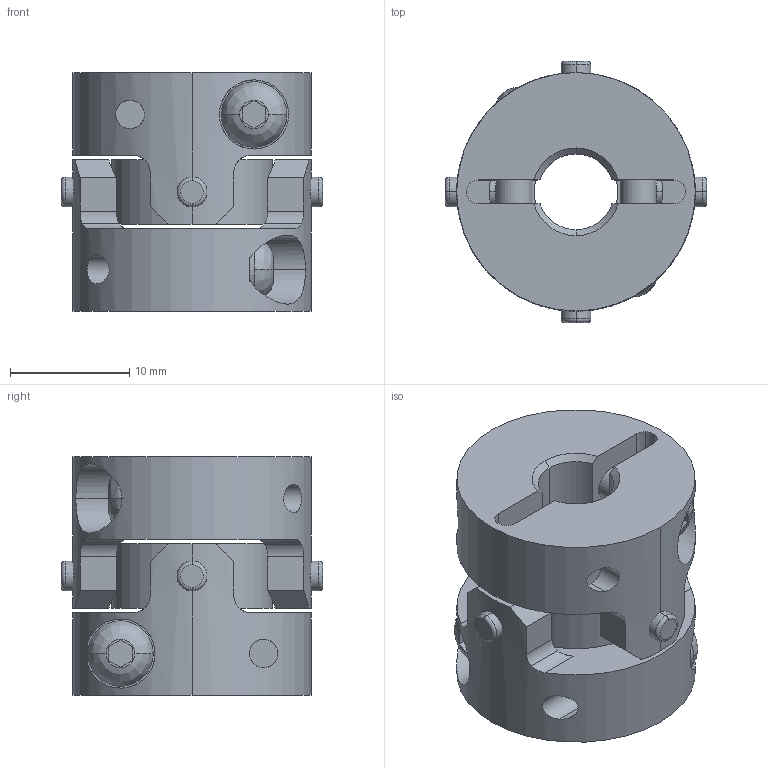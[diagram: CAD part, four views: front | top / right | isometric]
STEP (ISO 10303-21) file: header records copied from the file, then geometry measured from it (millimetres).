
FILE_DESCRIPTION((''),'2;1');
FILE_NAME('UA-20C-6.35×8.stp','2013-11-12T14:13:16',(''),(''),'AutoCAD STEP 2000i','AutoCAD 2000i',', , ');
FILE_SCHEMA(('CONFIG_CONTROL_DESIGN'));
Length unit declared in the file: millimetre
Products named in the file (7): UA-20C-4×7; 忣兜1; UA-2002-D07; BTN-M3; UA-2002-D04-1; UA-2002-D04; UA20-SEN
Assembly tree (8 placements, depth 3):
  UA-20C-4×7
    忣兜1
    UA-2002-D07
      BTN-M3
    UA-2002-D04-1
      BTN-M3
    UA-2002-D04
      BTN-M3
    UA20-SEN
Bounding box: 21.89 x 21.89 x 20 mm (x, y, z)
Volume: 4309.2 mm3; surface area: 3825.9 mm2
Topology: 1 solids, 1 shells, 206 faces, 554 edges, 364 vertices
Faces by surface type: cylinder 96, plane 78, cone 16, bspline 8, torus 8
Entity records: 8025 total; most frequent: CARTESIAN_POINT 2689, ORIENTED_EDGE 1108, DIRECTION 1068, EDGE_CURVE 554, AXIS2_PLACEMENT_3D 411, VERTEX_POINT 364, VECTOR 246, LINE 246
